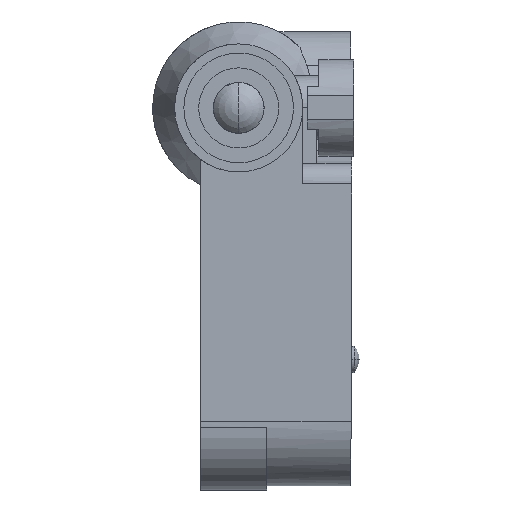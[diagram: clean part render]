
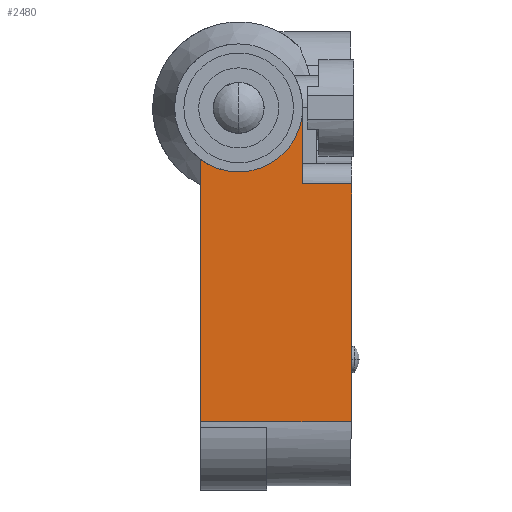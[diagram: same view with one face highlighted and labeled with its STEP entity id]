
A CAD part, left-side view. The second image highlights one B-rep face of the part: STEP entity #2480.
In plain terms, the highlighted planar face has unit normal (-1, 0, 0).
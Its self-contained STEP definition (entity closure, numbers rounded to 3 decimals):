
#1560=CARTESIAN_POINT('',(31.78,-6.437,
-4.75));
#1570=VERTEX_POINT('',#1560);
#1600=CARTESIAN_POINT('',(31.78,0.,
-4.75));
#1610=DIRECTION('',(0.,1.,0.));
#1620=VECTOR('',#1610,1.);
#1630=LINE('',#1600,#1620);
#1640=CARTESIAN_POINT('',(31.78,-39.207,
-4.75));
#1650=VERTEX_POINT('',#1640);
#1660=EDGE_CURVE('',#1650,#1570,#1630,.T.);
#1960=CARTESIAN_POINT('',(31.78,-36.126,-3.5));
#1970=DIRECTION('',(-1.,0.,0.));
#1980=DIRECTION('',(0.,-1.,0.));
#1990=AXIS2_PLACEMENT_3D('',#1960,#1970,#1980);
#2000=PLANE('',#1990);
#2010=CARTESIAN_POINT('',(31.78,-39.207,
-13.344));
#2020=DIRECTION('',(0.,0.,1.));
#2030=VECTOR('',#2020,1.);
#2040=LINE('',#2010,#2030);
#2050=CARTESIAN_POINT('',(31.78,-39.207,
14.047));
#2060=VERTEX_POINT('',#2050);
#2070=EDGE_CURVE('',#1650,#2060,#2040,.T.);
#2080=ORIENTED_EDGE('',*,*,#2070,.T.);
#2090=ORIENTED_EDGE('',*,*,#1660,.F.);
#2100=CARTESIAN_POINT('',(31.78,0.,0.));
#2110=DIRECTION('',(-1.,0.,0.));
#2120=DIRECTION('',(0.,-1.,0.));
#2130=AXIS2_PLACEMENT_3D('',#2100,#2110,#2120);
#2140=CIRCLE('',#2130,8.);
#2150=CARTESIAN_POINT('',(31.78,-8.,0.));
#2160=VERTEX_POINT('',#2150);
#2170=EDGE_CURVE('',#1570,#2160,#2140,.T.);
#2180=ORIENTED_EDGE('',*,*,#2170,.F.);
#2190=CARTESIAN_POINT('',(31.78,0.,8.));
#2200=VERTEX_POINT('',#2190);
#2210=EDGE_CURVE('',#2160,#2200,#2140,.T.);
#2220=ORIENTED_EDGE('',*,*,#2210,.F.);
#2230=CARTESIAN_POINT('',(31.78,0.,
8.));
#2240=DIRECTION('',(0.,-1.,0.));
#2250=VECTOR('',#2240,1.);
#2260=LINE('',#2230,#2250);
#2270=CARTESIAN_POINT('',(31.78,-9.5,
8.));
#2280=VERTEX_POINT('',#2270);
#2290=EDGE_CURVE('',#2200,#2280,#2260,.T.);
#2300=ORIENTED_EDGE('',*,*,#2290,.F.);
#2310=CARTESIAN_POINT('',(31.78,-9.5,11.5));
#2320=DIRECTION('',(0.,0.,-1.));
#2330=VECTOR('',#2320,1.);
#2340=LINE('',#2310,#2330);
#2350=CARTESIAN_POINT('',(31.78,-9.5,
14.128));
#2360=VERTEX_POINT('',#2350);
#2370=EDGE_CURVE('',#2360,#2280,#2340,.T.);
#2380=ORIENTED_EDGE('',*,*,#2370,.T.);
#2390=CARTESIAN_POINT('',(31.78,-18.9,-1985.85));
#2400=DIRECTION('',(1.,0.,0.));
#2410=DIRECTION('',(0.,1.,0.));
#2420=AXIS2_PLACEMENT_3D('',#2390,#2400,#2410);
#2430=CIRCLE('',#2420,2000.);
#2440=EDGE_CURVE('',#2360,#2060,#2430,.T.);
#2450=ORIENTED_EDGE('',*,*,#2440,.F.);
#2460=EDGE_LOOP('',(#2450,#2380,#2300,#2220,#2180,#2090,#2080));
#2470=FACE_OUTER_BOUND('',#2460,.T.);
#2480=ADVANCED_FACE('',(#2470),#2000,.T.);
